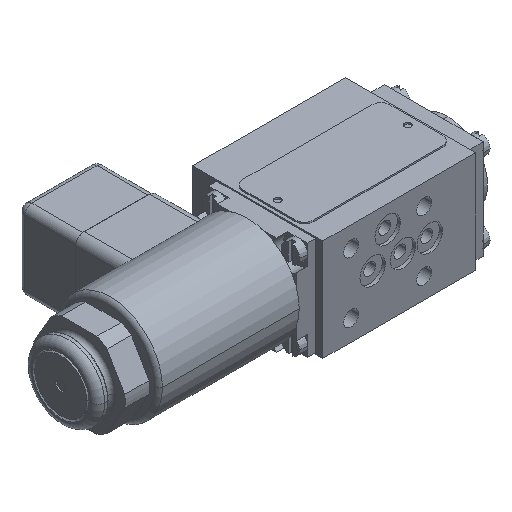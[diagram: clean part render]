
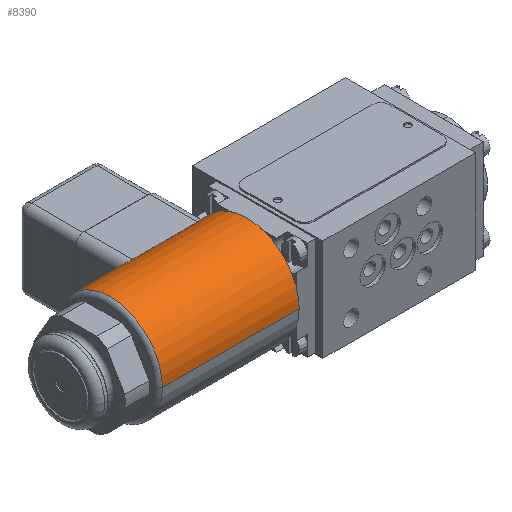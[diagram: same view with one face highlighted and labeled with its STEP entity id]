
A CAD part, isometric view. The second image highlights one B-rep face of the part: STEP entity #8390.
In plain terms, the highlighted cylindrical face has radius 18.5 mm (diameter 37 mm), a partial arc.
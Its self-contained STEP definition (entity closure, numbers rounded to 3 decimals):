
#6826=DIRECTION('',(1.,0.,0.));
#6827=VECTOR('',#6826,1.5);
#6828=CARTESIAN_POINT('',(1.5,16.608,-8.15));
#6829=LINE('',#6828,#6827);
#6833=CARTESIAN_POINT('',(0.5,0.,0.));
#6834=DIRECTION('',(1.,0.,0.));
#6835=DIRECTION('',(0.,0.922,-0.386));
#6836=AXIS2_PLACEMENT_3D('',#6833,#6834,#6835);
#6841=DIRECTION('',(-1.,0.,0.));
#6842=VECTOR('',#6841,0.5);
#6843=CARTESIAN_POINT('',(0.5,18.5,0.));
#6844=LINE('',#6843,#6842);
#6848=DIRECTION('',(-1.,0.,0.));
#6849=VECTOR('',#6848,48.368);
#6850=CARTESIAN_POINT('',(48.368,-18.5,0.));
#6851=LINE('',#6850,#6849);
#6855=CARTESIAN_POINT('',(48.368,0.,0.));
#6856=DIRECTION('',(-1.,0.,0.));
#6857=DIRECTION('',(0.,1.,0.));
#6858=AXIS2_PLACEMENT_3D('',#6855,#6856,#6857);
#6863=DIRECTION('',(-1.,0.,0.));
#6864=VECTOR('',#6863,16.368);
#6865=CARTESIAN_POINT('',(48.368,18.5,0.));
#6866=LINE('',#6865,#6864);
#6870=CARTESIAN_POINT('',(32.,0.,0.));
#6871=DIRECTION('',(1.,0.,0.));
#6872=DIRECTION('',(0.,0.783,-0.622));
#6873=AXIS2_PLACEMENT_3D('',#6870,#6871,#6872);
#6878=CARTESIAN_POINT('',(32.,14.491,-11.5));
#6879=CARTESIAN_POINT('',(32.,14.417,-11.594));
#6880=CARTESIAN_POINT('',(31.991,14.263,-11.784));
#6881=CARTESIAN_POINT('',(31.949,14.016,-12.076));
#6882=CARTESIAN_POINT('',(31.878,13.762,-12.366));
#6883=CARTESIAN_POINT('',(31.777,13.504,-12.647));
#6884=CARTESIAN_POINT('',(31.65,13.247,-12.916));
#6885=CARTESIAN_POINT('',(31.5,12.997,-13.167));
#6886=CARTESIAN_POINT('',(31.331,12.761,-13.395));
#6887=CARTESIAN_POINT('',(31.146,12.54,-13.602));
#6888=CARTESIAN_POINT('',(30.95,12.339,-13.785));
#6889=CARTESIAN_POINT('',(30.748,12.16,-13.943));
#6890=CARTESIAN_POINT('',(30.542,12.004,-14.077));
#6891=CARTESIAN_POINT('',(30.338,11.872,-14.188));
#6892=CARTESIAN_POINT('',(30.137,11.763,-14.279));
#6893=CARTESIAN_POINT('',(29.94,11.674,-14.352));
#6894=CARTESIAN_POINT('',(29.746,11.604,-14.408));
#6895=CARTESIAN_POINT('',(29.556,11.552,-14.45));
#6896=CARTESIAN_POINT('',(29.37,11.515,-14.479));
#6897=CARTESIAN_POINT('',(29.184,11.494,-14.496));
#6898=CARTESIAN_POINT('',(29.061,11.489,-14.5));
#6899=CARTESIAN_POINT('',(29.,11.489,-14.5));
#6904=DIRECTION('',(1.,0.,0.));
#6905=VECTOR('',#6904,23.);
#6906=CARTESIAN_POINT('',(6.,11.489,-14.5));
#6907=LINE('',#6906,#6905);
#6911=CARTESIAN_POINT('',(6.,11.489,-14.5));
#6912=CARTESIAN_POINT('',(5.939,11.489,-14.5));
#6913=CARTESIAN_POINT('',(5.816,11.494,-14.496));
#6914=CARTESIAN_POINT('',(5.63,11.515,-14.479));
#6915=CARTESIAN_POINT('',(5.444,11.552,-14.45));
#6916=CARTESIAN_POINT('',(5.254,11.604,-14.408));
#6917=CARTESIAN_POINT('',(5.06,11.674,-14.352));
#6918=CARTESIAN_POINT('',(4.863,11.763,-14.279));
#6919=CARTESIAN_POINT('',(4.662,11.872,-14.188));
#6920=CARTESIAN_POINT('',(4.458,12.004,-14.077));
#6921=CARTESIAN_POINT('',(4.252,12.16,-13.943));
#6922=CARTESIAN_POINT('',(4.05,12.339,-13.785));
#6923=CARTESIAN_POINT('',(3.854,12.54,-13.602));
#6924=CARTESIAN_POINT('',(3.669,12.761,-13.395));
#6925=CARTESIAN_POINT('',(3.5,12.997,-13.167));
#6926=CARTESIAN_POINT('',(3.35,13.247,-12.916));
#6927=CARTESIAN_POINT('',(3.223,13.504,-12.647));
#6928=CARTESIAN_POINT('',(3.122,13.762,-12.366));
#6929=CARTESIAN_POINT('',(3.051,14.016,-12.077));
#6930=CARTESIAN_POINT('',(3.009,14.263,-11.784));
#6931=CARTESIAN_POINT('',(3.,14.417,-11.594));
#6932=CARTESIAN_POINT('',(3.,14.491,-11.5));
#6937=CARTESIAN_POINT('',(3.,0.,0.));
#6938=DIRECTION('',(1.,0.,0.));
#6939=DIRECTION('',(0.,0.783,-0.622));
#6940=AXIS2_PLACEMENT_3D('',#6937,#6938,#6939);
#6959=CARTESIAN_POINT('',(0.5,17.062,-7.15));
#6960=CARTESIAN_POINT('',(0.5,17.047,-7.187));
#6961=CARTESIAN_POINT('',(0.504,17.016,
-7.26));
#6962=CARTESIAN_POINT('',(0.522,16.969,
-7.369));
#6963=CARTESIAN_POINT('',(0.552,16.923,
-7.475));
#6964=CARTESIAN_POINT('',(0.593,16.878,
-7.575));
#6965=CARTESIAN_POINT('',(0.644,16.835,
-7.671));
#6966=CARTESIAN_POINT('',(0.705,16.794,
-7.76));
#6967=CARTESIAN_POINT('',(0.775,16.756,
-7.841));
#6968=CARTESIAN_POINT('',(0.851,16.722,
-7.913));
#6969=CARTESIAN_POINT('',(0.933,16.692,
-7.976));
#6970=CARTESIAN_POINT('',(1.021,16.666,-8.03));
#6971=CARTESIAN_POINT('',(1.112,16.645,-8.074));
#6972=CARTESIAN_POINT('',(1.206,16.629,-8.108));
#6973=CARTESIAN_POINT('',(1.304,16.617,-8.132));
#6974=CARTESIAN_POINT('',(1.402,16.61,-8.147));
#6975=CARTESIAN_POINT('',(1.468,16.608,-8.15));
#6976=CARTESIAN_POINT('',(1.5,16.608,-8.15));
#7335=CARTESIAN_POINT('',(0.,0.,0.));
#7336=DIRECTION('',(-1.,0.,0.));
#7337=DIRECTION('',(0.,1.,0.));
#7338=AXIS2_PLACEMENT_3D('',#7335,#7336,#7337);
#7367=CARTESIAN_POINT('',(48.368,-18.5,0.));
#7368=CARTESIAN_POINT('',(0.,-18.5,0.));
#7369=VERTEX_POINT('',#7367);
#7370=VERTEX_POINT('',#7368);
#7376=CARTESIAN_POINT('',(32.,18.5,0.));
#7377=VERTEX_POINT('',#7376);
#7379=CARTESIAN_POINT('',(32.,14.491,-11.5));
#7380=VERTEX_POINT('',#7379);
#7381=VERTEX_POINT('',#6899);
#7382=CARTESIAN_POINT('',(6.,11.489,-14.5));
#7383=VERTEX_POINT('',#7382);
#7384=VERTEX_POINT('',#6932);
#7385=CARTESIAN_POINT('',(48.368,18.5,0.));
#7386=VERTEX_POINT('',#7385);
#7387=CARTESIAN_POINT('',(0.,18.5,0.));
#7388=VERTEX_POINT('',#7387);
#7413=CARTESIAN_POINT('',(3.,16.608,-8.15));
#7414=VERTEX_POINT('',#7413);
#7424=CARTESIAN_POINT('',(1.5,16.608,-8.15));
#7426=VERTEX_POINT('',#7424);
#7428=CARTESIAN_POINT('',(0.5,17.062,-7.15));
#7429=VERTEX_POINT('',#7428);
#7430=CARTESIAN_POINT('',(0.5,18.5,0.));
#7431=VERTEX_POINT('',#7430);
#8362=CARTESIAN_POINT('',(-2.47,0.,0.));
#8363=DIRECTION('',(1.,0.,0.));
#8364=DIRECTION('',(0.,-1.,0.));
#8365=AXIS2_PLACEMENT_3D('',#8362,#8363,#8364);
#8366=CYLINDRICAL_SURFACE('',#8365,18.5);
#8368=ORIENTED_EDGE('',*,*,#8367,.F.);
#8370=ORIENTED_EDGE('',*,*,#8369,.F.);
#8372=ORIENTED_EDGE('',*,*,#8371,.T.);
#8374=ORIENTED_EDGE('',*,*,#8373,.T.);
#8376=ORIENTED_EDGE('',*,*,#8375,.T.);
#8378=ORIENTED_EDGE('',*,*,#8377,.F.);
#8380=ORIENTED_EDGE('',*,*,#8379,.F.);
#8382=ORIENTED_EDGE('',*,*,#8381,.T.);
#8383=ORIENTED_EDGE('',*,*,#8265,.F.);
#8384=ORIENTED_EDGE('',*,*,#8293,.T.);
#8385=ORIENTED_EDGE('',*,*,#8319,.F.);
#8386=ORIENTED_EDGE('',*,*,#8344,.T.);
#8387=ORIENTED_EDGE('',*,*,#8160,.T.);
#8388=EDGE_LOOP('',(#8368,#8370,#8372,#8374,#8376,#8378,#8380,#8382,#8383,#8384,
#8385,#8386,#8387));
#8389=FACE_OUTER_BOUND('',#8388,.F.);
#6837=CIRCLE('',#6836,18.5);
#6859=CIRCLE('',#6858,18.5);
#6874=CIRCLE('',#6873,18.5);
#6900=B_SPLINE_CURVE_WITH_KNOTS('',3,(#6878,#6879,#6880,#6881,#6882,#6883,#6884,
#6885,#6886,#6887,#6888,#6889,#6890,#6891,#6892,#6893,#6894,#6895,#6896,#6897,
#6898,#6899),.UNSPECIFIED.,.F.,.F.,(4,1,1,1,1,1,1,1,1,1,1,1,1,1,1,1,1,1,1,4),(
0.,0.053,0.105,0.158,0.211,
0.263,0.316,0.368,0.421,
0.474,0.526,0.579,0.632,
0.684,0.737,0.789,0.842,
0.895,0.947,1.),.UNSPECIFIED.);
#6933=B_SPLINE_CURVE_WITH_KNOTS('',3,(#6911,#6912,#6913,#6914,#6915,#6916,#6917,
#6918,#6919,#6920,#6921,#6922,#6923,#6924,#6925,#6926,#6927,#6928,#6929,#6930,
#6931,#6932),.UNSPECIFIED.,.F.,.F.,(4,1,1,1,1,1,1,1,1,1,1,1,1,1,1,1,1,1,1,4),(
0.,0.053,0.105,0.158,0.211,
0.263,0.316,0.368,0.421,
0.474,0.526,0.579,0.632,
0.684,0.737,0.789,0.842,
0.895,0.947,1.),.UNSPECIFIED.);
#6941=CIRCLE('',#6940,18.5);
#6977=B_SPLINE_CURVE_WITH_KNOTS('',3,(#6959,#6960,#6961,#6962,#6963,#6964,#6965,
#6966,#6967,#6968,#6969,#6970,#6971,#6972,#6973,#6974,#6975,#6976),
.UNSPECIFIED.,.F.,.F.,(4,1,1,1,1,1,1,1,1,1,1,1,1,1,1,4),(0.,0.067,
0.133,0.2,0.267,0.333,0.4,
0.467,0.533,0.6,0.667,0.733,
0.8,0.867,0.933,1.),.UNSPECIFIED.);
#7339=CIRCLE('',#7338,18.5);
#8160=EDGE_CURVE('',#7384,#7414,#6941,.T.);
#8265=EDGE_CURVE('',#7380,#7377,#6874,.T.);
#8293=EDGE_CURVE('',#7380,#7381,#6900,.T.);
#8319=EDGE_CURVE('',#7383,#7381,#6907,.T.);
#8344=EDGE_CURVE('',#7383,#7384,#6933,.T.);
#8367=EDGE_CURVE('',#7426,#7414,#6829,.T.);
#8369=EDGE_CURVE('',#7429,#7426,#6977,.T.);
#8371=EDGE_CURVE('',#7429,#7431,#6837,.T.);
#8373=EDGE_CURVE('',#7431,#7388,#6844,.T.);
#8375=EDGE_CURVE('',#7388,#7370,#7339,.T.);
#8377=EDGE_CURVE('',#7369,#7370,#6851,.T.);
#8379=EDGE_CURVE('',#7386,#7369,#6859,.T.);
#8381=EDGE_CURVE('',#7386,#7377,#6866,.T.);
#8390=ADVANCED_FACE('',(#8389),#8366,.T.);
